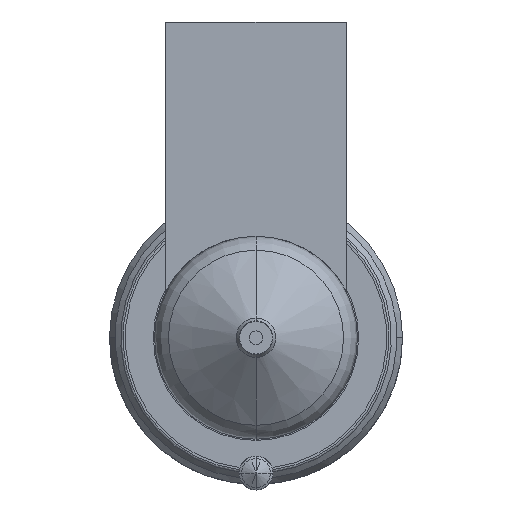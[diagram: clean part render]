
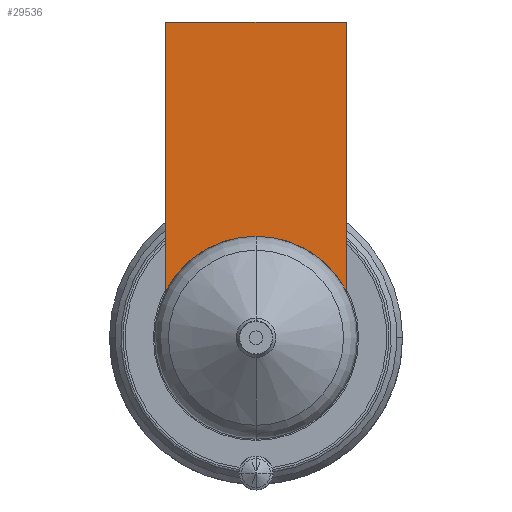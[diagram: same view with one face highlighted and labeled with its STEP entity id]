
A CAD part, front view. The second image highlights one B-rep face of the part: STEP entity #29536.
In plain terms, the highlighted planar face has unit normal (0, -1, 0).
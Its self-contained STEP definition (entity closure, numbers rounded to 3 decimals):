
#28885=DIRECTION('',(1.,0.,0.));
#28886=VECTOR('',#28885,16.);
#28887=CARTESIAN_POINT('',(-8.,-54.,28.));
#28888=LINE('',#28887,#28886);
#28893=CARTESIAN_POINT('',(0.,-54.,0.));
#28894=DIRECTION('',(0.,-1.,0.));
#28895=DIRECTION('',(0.889,0.,0.458));
#28896=AXIS2_PLACEMENT_3D('',#28893,#28894,#28895);
#28901=CARTESIAN_POINT('',(0.,-54.,0.));
#28902=DIRECTION('',(0.,-1.,0.));
#28903=DIRECTION('',(0.,0.,1.));
#28904=AXIS2_PLACEMENT_3D('',#28901,#28902,#28903);
#28930=DIRECTION('',(0.,0.,-1.));
#28931=VECTOR('',#28930,23.877);
#28932=CARTESIAN_POINT('',(-8.,-54.,28.));
#28933=LINE('',#28932,#28931);
#29408=DIRECTION('',(0.,0.,-1.));
#29409=VECTOR('',#29408,23.877);
#29410=CARTESIAN_POINT('',(8.,-54.,28.));
#29411=LINE('',#29410,#29409);
#29461=CARTESIAN_POINT('',(-8.,-54.,28.));
#29462=VERTEX_POINT('',#29461);
#29467=CARTESIAN_POINT('',(8.,-54.,28.));
#29468=VERTEX_POINT('',#29467);
#29471=CARTESIAN_POINT('',(-8.,-54.,4.123));
#29472=VERTEX_POINT('',#29471);
#29475=CARTESIAN_POINT('',(8.,-54.,4.123));
#29476=VERTEX_POINT('',#29475);
#29517=CARTESIAN_POINT('',(0.,-54.,9.));
#29518=VERTEX_POINT('',#29517);
#29519=CARTESIAN_POINT('',(0.,-54.,9.));
#29520=DIRECTION('',(0.,1.,0.));
#29521=DIRECTION('',(0.,0.,-1.));
#29522=AXIS2_PLACEMENT_3D('',#29519,#29520,#29521);
#29523=PLANE('',#29522);
#29525=ORIENTED_EDGE('',*,*,#29524,.F.);
#29527=ORIENTED_EDGE('',*,*,#29526,.T.);
#29529=ORIENTED_EDGE('',*,*,#29528,.T.);
#29531=ORIENTED_EDGE('',*,*,#29530,.T.);
#29533=ORIENTED_EDGE('',*,*,#29532,.T.);
#29534=EDGE_LOOP('',(#29525,#29527,#29529,#29531,#29533));
#29535=FACE_OUTER_BOUND('',#29534,.F.);
#29536=ADVANCED_FACE('',(#29535),#29523,.F.);
#28897=CIRCLE('',#28896,9.);
#28905=CIRCLE('',#28904,9.);
#29524=EDGE_CURVE('',#29462,#29472,#28933,.T.);
#29526=EDGE_CURVE('',#29462,#29468,#28888,.T.);
#29528=EDGE_CURVE('',#29468,#29476,#29411,.T.);
#29530=EDGE_CURVE('',#29476,#29518,#28897,.T.);
#29532=EDGE_CURVE('',#29518,#29472,#28905,.T.);
